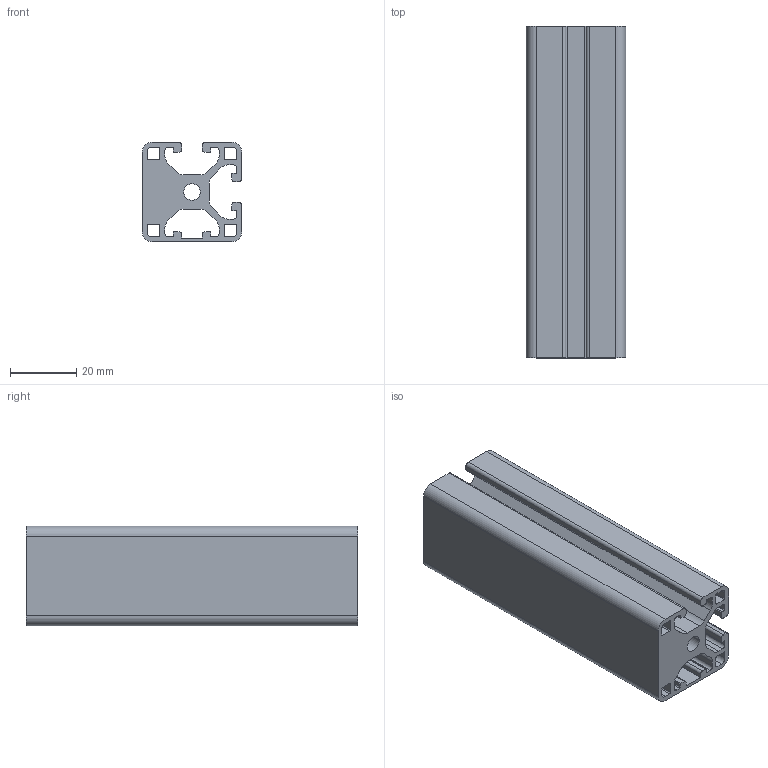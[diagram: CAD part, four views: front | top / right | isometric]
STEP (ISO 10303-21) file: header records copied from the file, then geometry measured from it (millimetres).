
FILE_DESCRIPTION(('STEP AP214'),'1');
FILE_NAME('cctmp_C2EEE2E4-7A28-4132-A18D-404C158AFF29_2019_8_13_14_1_34_894..stp','2019-08-13T12:01:35',('item Industrietechnik GmbH'),('CADClick - www.CADClick.com'),'Spatial InterOp 3D',' ','unknown authorization');
FILE_SCHEMA(('AUTOMOTIVE_DESIGN'));
Length unit declared in the file: millimetre
Products named in the file (1): item_0043945_Profile 6 30x30 2N90 light_L=100
Bounding box: 30 x 100 x 30 mm (x, y, z)
Volume: 42092 mm3; surface area: 34202.7 mm2
Topology: 1 solids, 1 shells, 157 faces, 462 edges, 308 vertices
Faces by surface type: plane 79, cylinder 78
Entity records: 6576 total; most frequent: DIRECTION 934, CARTESIAN_POINT 928, ORIENTED_EDGE 924, EDGE_CURVE 462, AXIS2_PLACEMENT_3D 314, VERTEX_POINT 308, LINE 306, VECTOR 306
